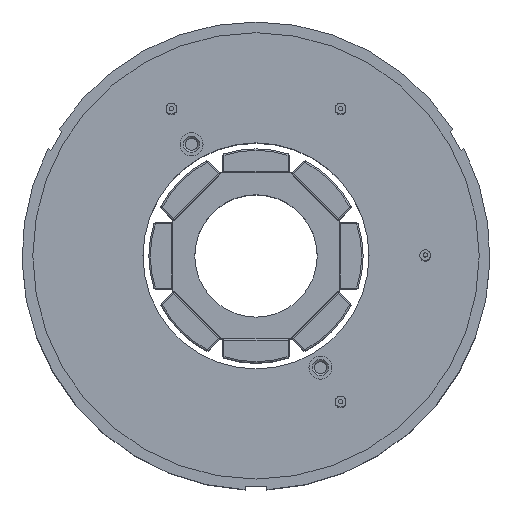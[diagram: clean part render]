
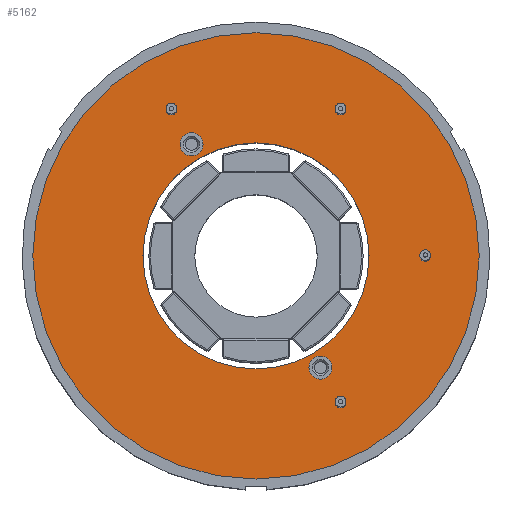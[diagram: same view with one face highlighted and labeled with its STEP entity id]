
A CAD part, top view. The second image highlights one B-rep face of the part: STEP entity #5162.
In plain terms, the highlighted planar face has unit normal (0, 0, 1).
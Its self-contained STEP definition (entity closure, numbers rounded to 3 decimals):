
#1090=PLANE('',#5703);
#1232=ORIENTED_EDGE('',*,*,#2581,.T.);
#1233=ORIENTED_EDGE('',*,*,#2583,.T.);
#1234=ORIENTED_EDGE('',*,*,#2584,.T.);
#1235=ORIENTED_EDGE('',*,*,#2585,.T.);
#1236=ORIENTED_EDGE('',*,*,#2586,.T.);
#1237=ORIENTED_EDGE('',*,*,#2587,.T.);
#1238=ORIENTED_EDGE('',*,*,#2588,.T.);
#1239=ORIENTED_EDGE('',*,*,#2589,.F.);
#2581=EDGE_CURVE('',#3491,#3491,#4123,.T.);
#2583=EDGE_CURVE('',#3493,#3493,#4125,.T.);
#2584=EDGE_CURVE('',#3494,#3494,#4126,.T.);
#2585=EDGE_CURVE('',#3495,#3495,#4127,.T.);
#2586=EDGE_CURVE('',#3496,#3496,#4128,.T.);
#2587=EDGE_CURVE('',#3497,#3497,#4129,.T.);
#2588=EDGE_CURVE('',#3498,#3498,#4130,.T.);
#2589=EDGE_CURVE('',#3499,#3499,#4131,.T.);
#3491=VERTEX_POINT('',#7537);
#3493=VERTEX_POINT('',#7542);
#3494=VERTEX_POINT('',#7545);
#3495=VERTEX_POINT('',#7547);
#3496=VERTEX_POINT('',#7549);
#3497=VERTEX_POINT('',#7551);
#3498=VERTEX_POINT('',#7553);
#3499=VERTEX_POINT('',#7555);
#4123=CIRCLE('',#5699,1.6);
#4125=CIRCLE('',#5702,1.6);
#4126=CIRCLE('',#5704,0.5);
#4127=CIRCLE('',#5705,0.5);
#4128=CIRCLE('',#5706,0.5);
#4129=CIRCLE('',#5707,0.5);
#4130=CIRCLE('',#5708,15.7);
#4131=CIRCLE('',#5709,31.);
#4368=EDGE_LOOP('',(#1232));
#4369=EDGE_LOOP('',(#1233));
#4370=EDGE_LOOP('',(#1234));
#4371=EDGE_LOOP('',(#1235));
#4372=EDGE_LOOP('',(#1236));
#4373=EDGE_LOOP('',(#1237));
#4374=EDGE_LOOP('',(#1238));
#4375=EDGE_LOOP('',(#1239));
#4728=FACE_BOUND('',#4368,.T.);
#4729=FACE_BOUND('',#4369,.T.);
#4730=FACE_BOUND('',#4370,.T.);
#4731=FACE_BOUND('',#4371,.T.);
#4732=FACE_BOUND('',#4372,.T.);
#4733=FACE_BOUND('',#4373,.T.);
#4734=FACE_BOUND('',#4374,.T.);
#4735=FACE_BOUND('',#4375,.T.);
#5162=ADVANCED_FACE('',(#4728,#4729,#4730,#4731,#4732,#4733,#4734,#4735),
#1090,.F.);
#5699=AXIS2_PLACEMENT_3D('',#7536,#6210,#6211);
#5702=AXIS2_PLACEMENT_3D('',#7541,#6216,#6217);
#5703=AXIS2_PLACEMENT_3D('',#7543,#6218,#6219);
#5704=AXIS2_PLACEMENT_3D('',#7544,#6220,#6221);
#5705=AXIS2_PLACEMENT_3D('',#7546,#6222,#6223);
#5706=AXIS2_PLACEMENT_3D('',#7548,#6224,#6225);
#5707=AXIS2_PLACEMENT_3D('',#7550,#6226,#6227);
#5708=AXIS2_PLACEMENT_3D('',#7552,#6228,#6229);
#5709=AXIS2_PLACEMENT_3D('',#7554,#6230,#6231);
#6210=DIRECTION('',(0.,0.,-1.));
#6211=DIRECTION('',(0.,-1.,0.));
#6216=DIRECTION('',(0.,0.,-1.));
#6217=DIRECTION('',(0.,-1.,0.));
#6218=DIRECTION('',(0.,0.,-1.));
#6219=DIRECTION('',(-1.,0.,0.));
#6220=DIRECTION('',(0.,0.,-1.));
#6221=DIRECTION('',(0.,-1.,0.));
#6222=DIRECTION('',(0.,0.,-1.));
#6223=DIRECTION('',(0.,-1.,0.));
#6224=DIRECTION('',(0.,0.,-1.));
#6225=DIRECTION('',(0.,-1.,0.));
#6226=DIRECTION('',(0.,0.,-1.));
#6227=DIRECTION('',(0.,-1.,0.));
#6228=DIRECTION('',(0.,0.,-1.));
#6229=DIRECTION('',(1.,0.,0.));
#6230=DIRECTION('',(0.,0.,-1.));
#6231=DIRECTION('',(1.,0.,0.));
#7536=CARTESIAN_POINT('',(8.955,-15.511,17.5));
#7537=CARTESIAN_POINT('',(8.955,-17.111,17.5));
#7541=CARTESIAN_POINT('',(-8.955,15.511,17.5));
#7542=CARTESIAN_POINT('',(-8.955,13.911,17.5));
#7543=CARTESIAN_POINT('',(0.,0.,17.5));
#7544=CARTESIAN_POINT('',(-11.75,20.352,17.5));
#7545=CARTESIAN_POINT('',(-11.75,19.852,17.5));
#7546=CARTESIAN_POINT('',(11.75,-20.352,17.5));
#7547=CARTESIAN_POINT('',(11.75,-20.852,17.5));
#7548=CARTESIAN_POINT('',(23.5,0.,17.5));
#7549=CARTESIAN_POINT('',(23.5,-0.5,17.5));
#7550=CARTESIAN_POINT('',(11.75,20.352,17.5));
#7551=CARTESIAN_POINT('',(11.75,19.852,17.5));
#7552=CARTESIAN_POINT('',(0.,0.,17.5));
#7553=CARTESIAN_POINT('',(15.7,0.,17.5));
#7554=CARTESIAN_POINT('',(0.,0.,17.5));
#7555=CARTESIAN_POINT('',(31.,0.,17.5));
